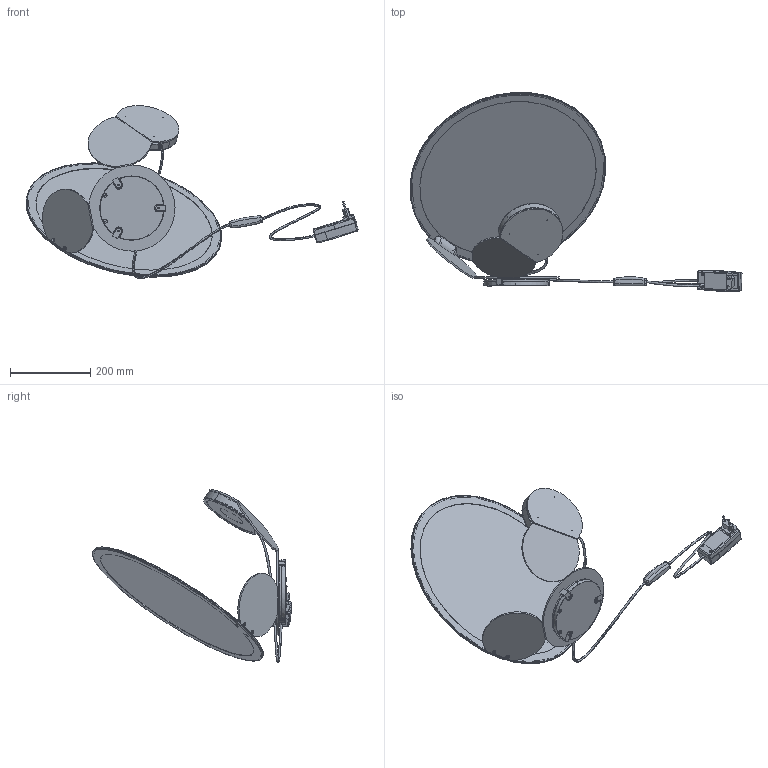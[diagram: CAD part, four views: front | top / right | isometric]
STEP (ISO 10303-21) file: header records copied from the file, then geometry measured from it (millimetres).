
FILE_DESCRIPTION (( 'STEP AP203' ), '1' );
FILE_NAME ('CUT-TABLE_3.STEP', '2019-07-25T14:28:01', ( '' ), ( '' ), 'SwSTEP 2.0', 'SolidWorks 2019', '' );
FILE_SCHEMA (( 'CONFIG_CONTROL_DESIGN' ));
Length unit declared in the file: millimetre
Products named in the file (26): AXO067-10_CUTRingSupport.STEP; Cablaggio Tavolo^AXO067A_CUT-TABLE.STEP; AXO067-05_CUTHeatsinkLock.STEP; AXO067-15_CUTFeltroInterfaccia.STEP; CUT-TABLE_3.STEP; CUT-TABLE_3; Grano_EI_punta_conica_M4_UNI5927_H05.STEP; AXO067-22_CUTFrameSpacer.STEP; AXO067-02_CUTFramePin.STEP; AXO067-06_CUTLensPlate.STEP; AXO067-01_CUTFrame_Default_As Machined_.STEP; nipple_SACLA_CoronaPiana_12291_nikelato.STEP; AXO067-03_CUTFrameHolder.STEP; piedino_silicone__10.STEP; AXO067-04_CUTHeatsink.STEP; AXO067-07_CUTDisc.STEP; AXO067-12_CUTTableBase.STEP; AXO067E-CUTLightBlock_12LED.STEP; AXO067-09_CUTBottomRing.STEP; lente_protezione__67_EA_LM067.STEP; AXO067D-CUT_Frame.STEP; driver_led_multi_20W_RELCO_RN1515N_EU.STEP; AXO067-11_CUTBracket_CNC.STEP; pulsante_push_RELCO-RL7151.STEP; AXO067-08_CUTTopRing.STEP; AXO067F_CUT_default.STEP
Assembly tree (30 placements, depth 5):
  CUT-TABLE_3
    CUT-TABLE_3.STEP
      AXO067F_CUT_default.STEP
        AXO067D-CUT_Frame.STEP
          AXO067-01_CUTFrame_Default_As Machined_.STEP
          AXO067-02_CUTFramePin.STEP
          AXO067-03_CUTFrameHolder.STEP
          AXO067-22_CUTFrameSpacer.STEP
        AXO067E-CUTLightBlock_12LED.STEP
          AXO067-04_CUTHeatsink.STEP
          AXO067-05_CUTHeatsinkLock.STEP
          AXO067-06_CUTLensPlate.STEP
          nipple_SACLA_CoronaPiana_12291_nikelato.STEP
          lente_protezione__67_EA_LM067.STEP
        AXO067-07_CUTDisc.STEP
        AXO067-08_CUTTopRing.STEP
        AXO067-09_CUTBottomRing.STEP
        AXO067-10_CUTRingSupport.STEP
      AXO067-11_CUTBracket_CNC.STEP  x3
      AXO067-12_CUTTableBase.STEP
      AXO067-15_CUTFeltroInterfaccia.STEP
      Cablaggio Tavolo^AXO067A_CUT-TABLE.STEP
      Grano_EI_punta_conica_M4_UNI5927_H05.STEP  x3
      pulsante_push_RELCO-RL7151.STEP
      driver_led_multi_20W_RELCO_RN1515N_EU.STEP
      piedino_silicone__10.STEP  x2
Bounding box: 827.95 x 495.59 x 431.21 mm (x, y, z)
Volume: 1805616.3 mm3; surface area: 1029900.2 mm2
Topology: 28 solids, 28 shells, 867 faces, 2059 edges, 1274 vertices
Faces by surface type: plane 304, cylinder 281, cone 177, bspline 44, sphere 34, torus 27
Entity records: 36852 total; most frequent: CARTESIAN_POINT 16096, DIRECTION 3852, ORIENTED_EDGE 3656, EDGE_CURVE 1828, AXIS2_PLACEMENT_3D 1562, VERTEX_POINT 1150, EDGE_LOOP 880, CIRCLE 797
